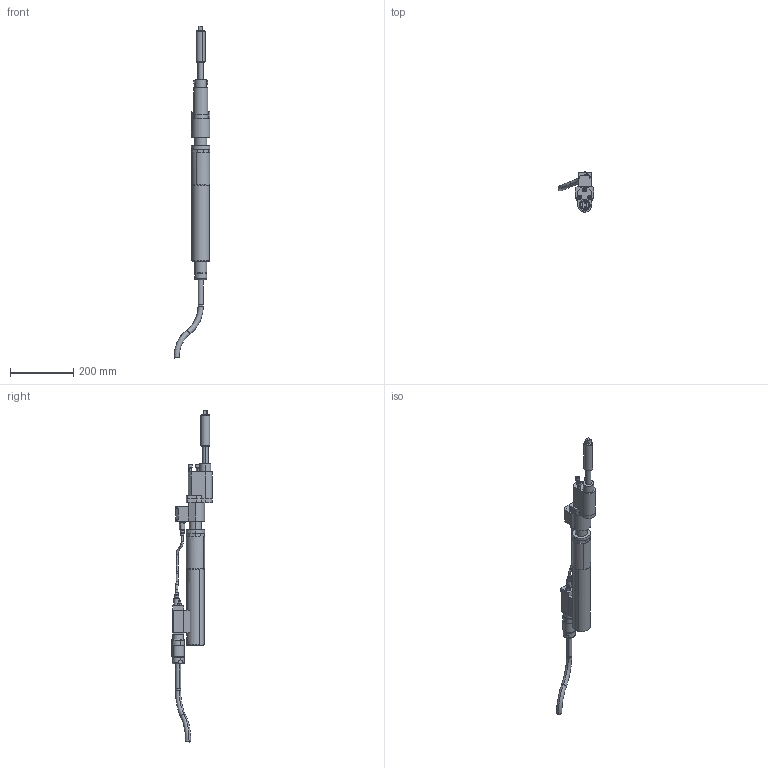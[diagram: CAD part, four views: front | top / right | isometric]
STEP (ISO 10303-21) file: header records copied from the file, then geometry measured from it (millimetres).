
FILE_DESCRIPTION(('CATIA V5 STEP Exchange'),'2;1');
FILE_NAME('C:\pro\7920447_ECR220_DR160_AO250_AllCATPart.stp','2008-11-10T09:32:20+00:00',('none'),('none'),'CATIA Version 5 Release 17 (IN-10)','CATIA V5 STEP AP203','none');
FILE_SCHEMA(('CONFIG_CONTROL_DESIGN'));
Length unit declared in the file: millimetre
Products named in the file (1): 7920447_ECR220_DR160_AO250_AllCATPart
Bounding box: 112.82 x 127.8 x 1048.76 mm (x, y, z)
Volume: 1950420.4 mm3; surface area: 235031.2 mm2
Topology: 18 solids, 18 shells, 435 faces, 962 edges, 602 vertices
Faces by surface type: plane 214, cylinder 143, cone 42, torus 36
Entity records: 11327 total; most frequent: CARTESIAN_POINT 2239, ORIENTED_EDGE 1916, DIRECTION 1590, EDGE_CURVE 958, AXIS2_PLACEMENT_3D 745, VERTEX_POINT 602, VECTOR 512, LINE 512
